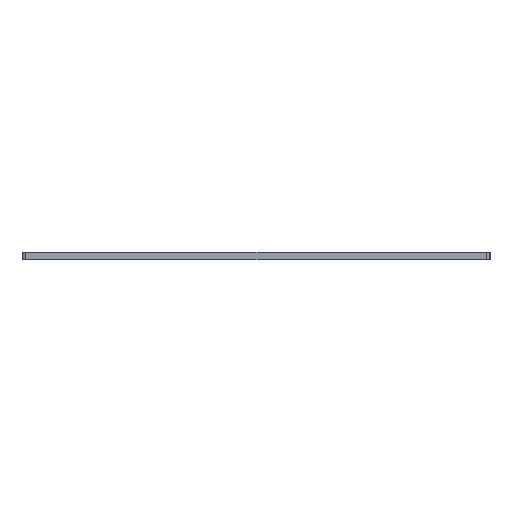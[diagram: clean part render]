
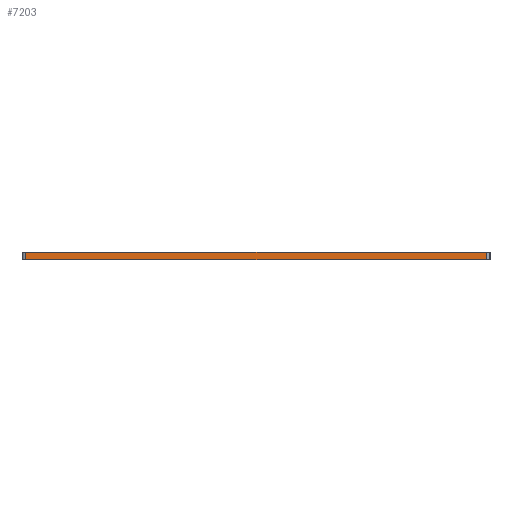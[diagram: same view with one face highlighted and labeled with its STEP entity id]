
A CAD part, left-side view. The second image highlights one B-rep face of the part: STEP entity #7203.
In plain terms, the highlighted planar face has unit normal (-1, 0, 0).
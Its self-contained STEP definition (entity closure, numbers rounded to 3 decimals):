
#44 = PLANE('',#45);
#45 = AXIS2_PLACEMENT_3D('',#46,#47,#48);
#46 = CARTESIAN_POINT('',(149.55,-110.45,-6.));
#47 = DIRECTION('',(0.,0.,1.));
#48 = DIRECTION('',(1.,0.,-0.));
#72 = CYLINDRICAL_SURFACE('',#73,1.);
#73 = AXIS2_PLACEMENT_3D('',#74,#75,#76);
#74 = CARTESIAN_POINT('',(65.9,-171.9,-6.));
#75 = DIRECTION('',(0.,0.,1.));
#76 = DIRECTION('',(0.,-1.,0.));
#100 = PLANE('',#101);
#101 = AXIS2_PLACEMENT_3D('',#102,#103,#104);
#102 = CARTESIAN_POINT('',(149.55,-110.45,-4.));
#103 = DIRECTION('',(0.,0.,1.));
#104 = DIRECTION('',(1.,0.,-0.));
#140 = VERTEX_POINT('',#141);
#141 = CARTESIAN_POINT('',(64.9,-171.9,-6.));
#548 = VERTEX_POINT('',#549);
#549 = CARTESIAN_POINT('',(64.9,-49.,-6.));
#564 = CYLINDRICAL_SURFACE('',#565,1.);
#565 = AXIS2_PLACEMENT_3D('',#566,#567,#568);
#566 = CARTESIAN_POINT('',(65.9,-49.,-6.));
#567 = DIRECTION('',(0.,0.,1.));
#568 = DIRECTION('',(-0.,1.,0.));
#576 = EDGE_CURVE('',#548,#140,#577,.T.);
#577 = SURFACE_CURVE('',#578,(#582,#589),.PCURVE_S1.);
#578 = LINE('',#579,#580);
#579 = CARTESIAN_POINT('',(64.9,-48.,-6.));
#580 = VECTOR('',#581,1.);
#581 = DIRECTION('',(0.,-1.,0.));
#582 = PCURVE('',#44,#583);
#583 = DEFINITIONAL_REPRESENTATION('',(#584),#588);
#584 = LINE('',#585,#586);
#585 = CARTESIAN_POINT('',(-84.65,62.45));
#586 = VECTOR('',#587,1.);
#587 = DIRECTION('',(0.,-1.));
#588 = ( GEOMETRIC_REPRESENTATION_CONTEXT(2) 
PARAMETRIC_REPRESENTATION_CONTEXT() REPRESENTATION_CONTEXT('2D SPACE',''
  ) );
#589 = PCURVE('',#590,#595);
#590 = PLANE('',#591);
#591 = AXIS2_PLACEMENT_3D('',#592,#593,#594);
#592 = CARTESIAN_POINT('',(64.9,-48.,-6.));
#593 = DIRECTION('',(1.,0.,-0.));
#594 = DIRECTION('',(0.,-1.,0.));
#595 = DEFINITIONAL_REPRESENTATION('',(#596),#600);
#596 = LINE('',#597,#598);
#597 = CARTESIAN_POINT('',(0.,0.));
#598 = VECTOR('',#599,1.);
#599 = DIRECTION('',(1.,0.));
#600 = ( GEOMETRIC_REPRESENTATION_CONTEXT(2) 
PARAMETRIC_REPRESENTATION_CONTEXT() REPRESENTATION_CONTEXT('2D SPACE',''
  ) );
#4029 = VERTEX_POINT('',#4030);
#4030 = CARTESIAN_POINT('',(64.9,-171.9,-4.));
#4352 = VERTEX_POINT('',#4353);
#4353 = CARTESIAN_POINT('',(64.9,-49.,-4.));
#4375 = EDGE_CURVE('',#4352,#4029,#4376,.T.);
#4376 = SURFACE_CURVE('',#4377,(#4381,#4388),.PCURVE_S1.);
#4377 = LINE('',#4378,#4379);
#4378 = CARTESIAN_POINT('',(64.9,-48.,-4.));
#4379 = VECTOR('',#4380,1.);
#4380 = DIRECTION('',(0.,-1.,0.));
#4381 = PCURVE('',#100,#4382);
#4382 = DEFINITIONAL_REPRESENTATION('',(#4383),#4387);
#4383 = LINE('',#4384,#4385);
#4384 = CARTESIAN_POINT('',(-84.65,62.45));
#4385 = VECTOR('',#4386,1.);
#4386 = DIRECTION('',(0.,-1.));
#4387 = ( GEOMETRIC_REPRESENTATION_CONTEXT(2) 
PARAMETRIC_REPRESENTATION_CONTEXT() REPRESENTATION_CONTEXT('2D SPACE',''
  ) );
#4388 = PCURVE('',#590,#4389);
#4389 = DEFINITIONAL_REPRESENTATION('',(#4390),#4394);
#4390 = LINE('',#4391,#4392);
#4391 = CARTESIAN_POINT('',(0.,-2.));
#4392 = VECTOR('',#4393,1.);
#4393 = DIRECTION('',(1.,0.));
#4394 = ( GEOMETRIC_REPRESENTATION_CONTEXT(2) 
PARAMETRIC_REPRESENTATION_CONTEXT() REPRESENTATION_CONTEXT('2D SPACE',''
  ) );
#7181 = EDGE_CURVE('',#140,#4029,#7182,.T.);
#7182 = SURFACE_CURVE('',#7183,(#7187,#7194),.PCURVE_S1.);
#7183 = LINE('',#7184,#7185);
#7184 = CARTESIAN_POINT('',(64.9,-171.9,-6.));
#7185 = VECTOR('',#7186,1.);
#7186 = DIRECTION('',(0.,0.,1.));
#7187 = PCURVE('',#72,#7188);
#7188 = DEFINITIONAL_REPRESENTATION('',(#7189),#7193);
#7189 = LINE('',#7190,#7191);
#7190 = CARTESIAN_POINT('',(-1.571,0.));
#7191 = VECTOR('',#7192,1.);
#7192 = DIRECTION('',(-0.,1.));
#7193 = ( GEOMETRIC_REPRESENTATION_CONTEXT(2) 
PARAMETRIC_REPRESENTATION_CONTEXT() REPRESENTATION_CONTEXT('2D SPACE',''
  ) );
#7194 = PCURVE('',#590,#7195);
#7195 = DEFINITIONAL_REPRESENTATION('',(#7196),#7200);
#7196 = LINE('',#7197,#7198);
#7197 = CARTESIAN_POINT('',(123.9,0.));
#7198 = VECTOR('',#7199,1.);
#7199 = DIRECTION('',(0.,-1.));
#7200 = ( GEOMETRIC_REPRESENTATION_CONTEXT(2) 
PARAMETRIC_REPRESENTATION_CONTEXT() REPRESENTATION_CONTEXT('2D SPACE',''
  ) );
#7203 = ADVANCED_FACE('',(#7204),#590,.F.);
#7204 = FACE_BOUND('',#7205,.F.);
#7205 = EDGE_LOOP('',(#7206,#7207,#7228,#7229));
#7206 = ORIENTED_EDGE('',*,*,#576,.F.);
#7207 = ORIENTED_EDGE('',*,*,#7208,.T.);
#7208 = EDGE_CURVE('',#548,#4352,#7209,.T.);
#7209 = SURFACE_CURVE('',#7210,(#7214,#7221),.PCURVE_S1.);
#7210 = LINE('',#7211,#7212);
#7211 = CARTESIAN_POINT('',(64.9,-49.,-6.));
#7212 = VECTOR('',#7213,1.);
#7213 = DIRECTION('',(0.,0.,1.));
#7214 = PCURVE('',#590,#7215);
#7215 = DEFINITIONAL_REPRESENTATION('',(#7216),#7220);
#7216 = LINE('',#7217,#7218);
#7217 = CARTESIAN_POINT('',(1.,0.));
#7218 = VECTOR('',#7219,1.);
#7219 = DIRECTION('',(0.,-1.));
#7220 = ( GEOMETRIC_REPRESENTATION_CONTEXT(2) 
PARAMETRIC_REPRESENTATION_CONTEXT() REPRESENTATION_CONTEXT('2D SPACE',''
  ) );
#7221 = PCURVE('',#564,#7222);
#7222 = DEFINITIONAL_REPRESENTATION('',(#7223),#7227);
#7223 = LINE('',#7224,#7225);
#7224 = CARTESIAN_POINT('',(1.571,0.));
#7225 = VECTOR('',#7226,1.);
#7226 = DIRECTION('',(0.,1.));
#7227 = ( GEOMETRIC_REPRESENTATION_CONTEXT(2) 
PARAMETRIC_REPRESENTATION_CONTEXT() REPRESENTATION_CONTEXT('2D SPACE',''
  ) );
#7228 = ORIENTED_EDGE('',*,*,#4375,.T.);
#7229 = ORIENTED_EDGE('',*,*,#7181,.F.);
